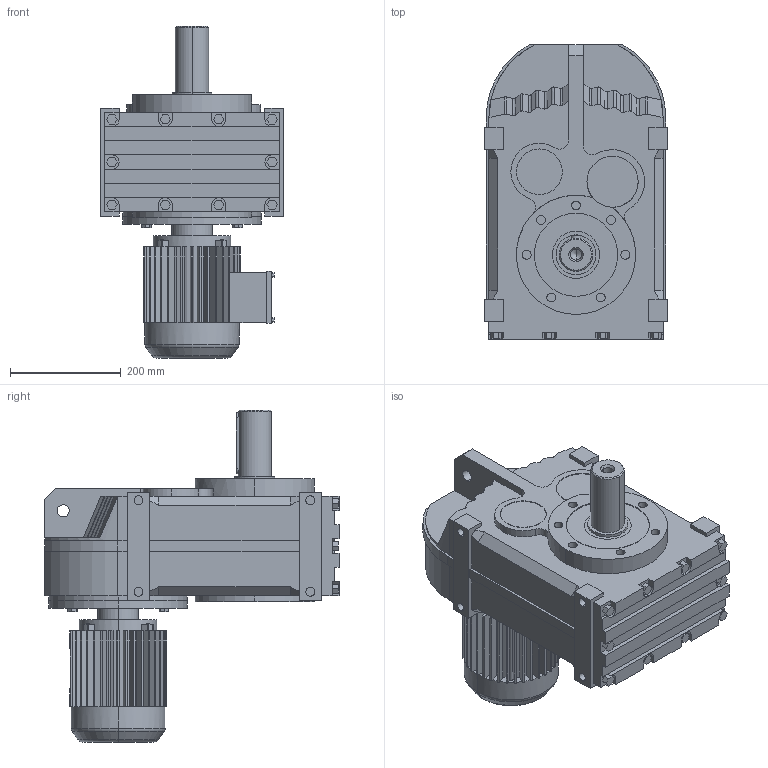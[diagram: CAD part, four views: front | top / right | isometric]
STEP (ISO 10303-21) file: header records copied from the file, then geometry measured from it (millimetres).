
FILE_DESCRIPTION(('Open CASCADE Model'),'2;1');
FILE_NAME('Open CASCADE Shape Model','2018-09-11T15:23:51',('Author'),( 'Open CASCADE'),'Open CASCADE STEP processor 6.3','Open CASCADE 6.3' ,'Unknown');
FILE_SCHEMA(('AUTOMOTIVE_DESIGN_CC2 { 1 2 10303 214 -1 1 5 4 }'));
Length unit declared in the file: millimetre
Products named in the file (4): 1_F87-Y80M; FA27‵157_87.step; 萇儂_250_Y80M.step; す瑩妗陑粣F_87.step
Assembly tree (3 placements, depth 2):
  1_F87-Y80M
    FA27‵157_87.step
    萇儂_250_Y80M.step
    す瑩妗陑粣F_87.step
Bounding box: 330 x 531 x 599 mm (x, y, z)
Volume: 35218558.7 mm3; surface area: 1291016.6 mm2
Topology: 3 solids, 3 shells, 789 faces, 2080 edges, 1350 vertices
Faces by surface type: plane 565, cylinder 196, bspline 16, cone 8, torus 4
Entity records: 53131 total; most frequent: CARTESIAN_POINT 13256, DIRECTION 6973, ORIENTED_EDGE 4156, PCURVE 4156, DEFINITIONAL_REPRESENTATION 4156, LINE 3927, VECTOR 3927, EDGE_CURVE 2078
